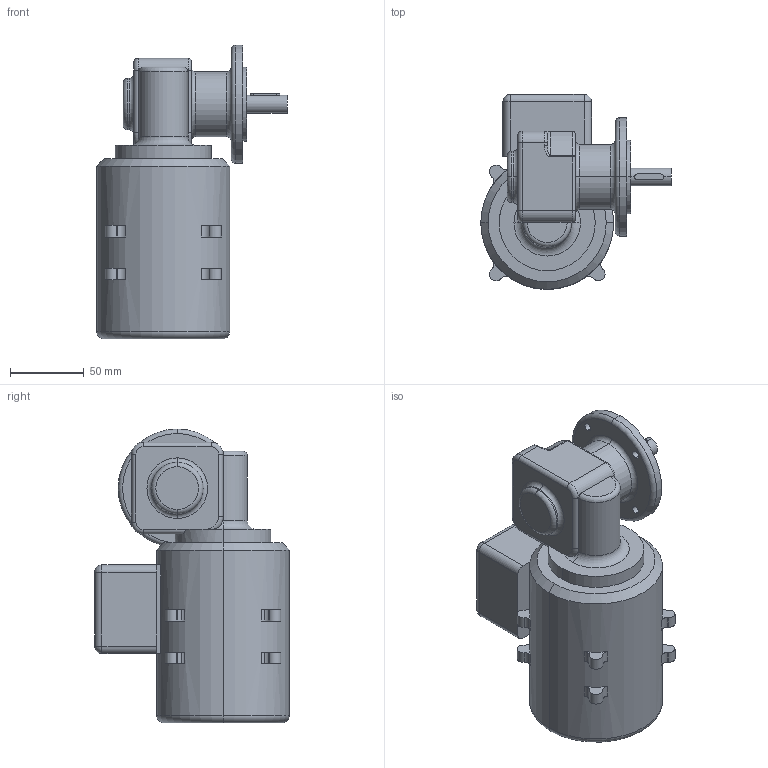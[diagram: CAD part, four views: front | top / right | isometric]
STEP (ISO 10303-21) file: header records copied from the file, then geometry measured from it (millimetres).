
FILE_DESCRIPTION (( 'STEP AP203' ), '1' );
FILE_NAME ('SN5FR-45W-A.STEP', '2007-09-13T06:16:43', ( ' ' ), ( ' ' ), 'SwSTEP 2.0', 'SolidWorks 2006233', '' );
FILE_SCHEMA (( 'CONFIG_CONTROL_DESIGN' ));
Length unit declared in the file: millimetre
Products named in the file (3): SRF45Wof_Standard; SN5FR_Standard; SN5FR-45W-A
Assembly tree (2 placements, depth 2):
  SN5FR-45W-A
    SRF45Wof_Standard
    SN5FR_Standard
Bounding box: 129 x 132 x 199 mm (x, y, z)
Volume: 1215752.4 mm3; surface area: 97601 mm2
Topology: 2 solids, 2 shells, 198 faces, 478 edges, 292 vertices
Faces by surface type: cylinder 91, plane 63, torus 30, sphere 8, bspline 4, cone 2
Entity records: 6576 total; most frequent: CARTESIAN_POINT 1527, DIRECTION 1093, ORIENTED_EDGE 944, EDGE_CURVE 472, AXIS2_PLACEMENT_3D 446, VERTEX_POINT 292, CIRCLE 247, EDGE_LOOP 220
